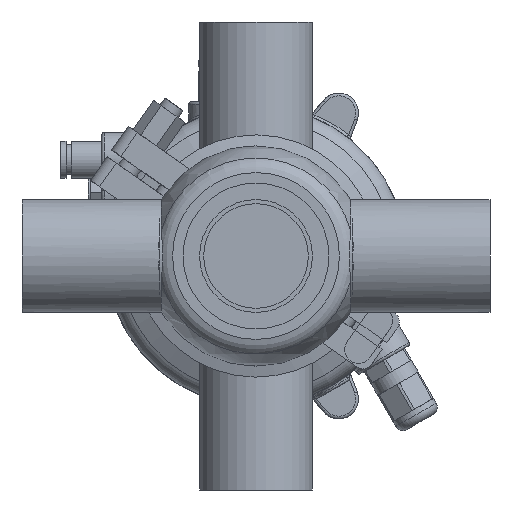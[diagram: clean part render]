
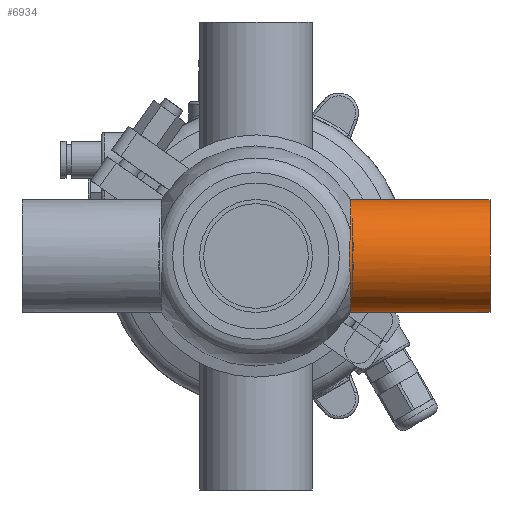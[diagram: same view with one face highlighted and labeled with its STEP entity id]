
A CAD part, front view. The second image highlights one B-rep face of the part: STEP entity #6934.
In plain terms, the highlighted cylindrical face has radius 20.5 mm (diameter 41 mm), a full revolution.
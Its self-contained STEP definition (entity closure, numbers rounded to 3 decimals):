
#1151 = EDGE_LOOP ( 'NONE', ( #43373, #54109 ) ) ;
#3543 = CARTESIAN_POINT ( 'NONE',  ( 33.772, -20.5, -0.802 ) ) ;
#4516 = DIRECTION ( 'NONE',  ( 1., 0., 0. ) ) ;
#4659 = EDGE_CURVE ( 'NONE', #45576, #36674, #17667, .T. ) ;
#6934 = ADVANCED_FACE ( 'NONE', ( #51546, #9627 ), #23705, .T. ) ;
#7151 = DIRECTION ( 'NONE',  ( -1., 0., 0. ) ) ;
#8390 = CARTESIAN_POINT ( 'NONE',  ( 34.02, -20.026, -4.401 ) ) ;
#8553 = AXIS2_PLACEMENT_3D ( 'NONE', #11418, #7151, #54202 ) ;
#9627 = FACE_OUTER_BOUND ( 'NONE', #56353, .T. ) ;
#11418 = CARTESIAN_POINT ( 'NONE',  ( 85., 0., 0. ) ) ;
#12075 = CARTESIAN_POINT ( 'NONE',  ( 34.347, -18.261, 9.316 ) ) ;
#13356 = CARTESIAN_POINT ( 'NONE',  ( 34.347, 0., 0. ) ) ;
#14836 = AXIS2_PLACEMENT_3D ( 'NONE', #13356, #4516, #36524 ) ;
#16335 = DIRECTION ( 'NONE',  ( -1., 0., 0. ) ) ;
#17264 = CARTESIAN_POINT ( 'NONE',  ( 34.347, -19.003, -7.861 ) ) ;
#17667 = B_SPLINE_CURVE_WITH_KNOTS ( 'NONE', 3,
 ( #12075, #34369, #53056, #30684, #49364, #29789, #48466, #3543, #50592, #59699, #40772, #35855, #8390, #36444, #17264, #54246 ),
 .UNSPECIFIED., .F., .F.,
 ( 4, 2, 2, 2, 2, 2, 2, 4 ),
 ( 0., 0.005, 0.007, 0.01, 0.012, 0.013, 0.014, 0.019 ),
 .UNSPECIFIED. ) ;
#23705 = CYLINDRICAL_SURFACE ( 'NONE', #36546, 20.5 ) ;
#29789 = CARTESIAN_POINT ( 'NONE',  ( 33.803, -20.453, 1.603 ) ) ;
#30009 = CARTESIAN_POINT ( 'NONE',  ( 85., 0., 20.5 ) ) ;
#30684 = CARTESIAN_POINT ( 'NONE',  ( 33.982, -20.121, 4.006 ) ) ;
#34369 = CARTESIAN_POINT ( 'NONE',  ( 34.347, -19.003, 7.862 ) ) ;
#35001 = EDGE_CURVE ( 'NONE', #36674, #45576, #51957, .T. ) ;
#35471 = VERTEX_POINT ( 'NONE', #30009 ) ;
#35855 = CARTESIAN_POINT ( 'NONE',  ( 33.983, -20.109, -4.007 ) ) ;
#36444 = CARTESIAN_POINT ( 'NONE',  ( 34.203, -19.556, -6.355 ) ) ;
#36524 = DIRECTION ( 'NONE',  ( 0., 0., 1. ) ) ;
#36546 = AXIS2_PLACEMENT_3D ( 'NONE', #37711, #16335, #48132 ) ;
#36674 = VERTEX_POINT ( 'NONE', #43144 ) ;
#37711 = CARTESIAN_POINT ( 'NONE',  ( 0., 0., 0. ) ) ;
#37769 = EDGE_CURVE ( 'NONE', #35471, #35471, #57326, .T. ) ;
#39674 = ORIENTED_EDGE ( 'NONE', *, *, #37769, .T. ) ;
#40772 = CARTESIAN_POINT ( 'NONE',  ( 33.914, -20.251, -3.21 ) ) ;
#43144 = CARTESIAN_POINT ( 'NONE',  ( 34.347, -18.261, -9.316 ) ) ;
#43373 = ORIENTED_EDGE ( 'NONE', *, *, #35001, .T. ) ;
#45576 = VERTEX_POINT ( 'NONE', #51553 ) ;
#48132 = DIRECTION ( 'NONE',  ( 0., 0., 1. ) ) ;
#48466 = CARTESIAN_POINT ( 'NONE',  ( 33.772, -20.5, 0.802 ) ) ;
#49364 = CARTESIAN_POINT ( 'NONE',  ( 33.908, -20.264, 3.204 ) ) ;
#50592 = CARTESIAN_POINT ( 'NONE',  ( 33.803, -20.453, -1.604 ) ) ;
#51546 = FACE_OUTER_BOUND ( 'NONE', #1151, .T. ) ;
#51553 = CARTESIAN_POINT ( 'NONE',  ( 34.347, -18.261, 9.316 ) ) ;
#51957 = CIRCLE ( 'NONE', #14836, 20.5 ) ;
#53056 = CARTESIAN_POINT ( 'NONE',  ( 34.203, -19.557, 6.355 ) ) ;
#54109 = ORIENTED_EDGE ( 'NONE', *, *, #4659, .T. ) ;
#54202 = DIRECTION ( 'NONE',  ( 0., 0., 1. ) ) ;
#54246 = CARTESIAN_POINT ( 'NONE',  ( 34.347, -18.261, -9.316 ) ) ;
#56353 = EDGE_LOOP ( 'NONE', ( #39674 ) ) ;
#57326 = CIRCLE ( 'NONE', #8553, 20.5 ) ;
#59699 = CARTESIAN_POINT ( 'NONE',  ( 33.882, -20.311, -2.808 ) ) ;
